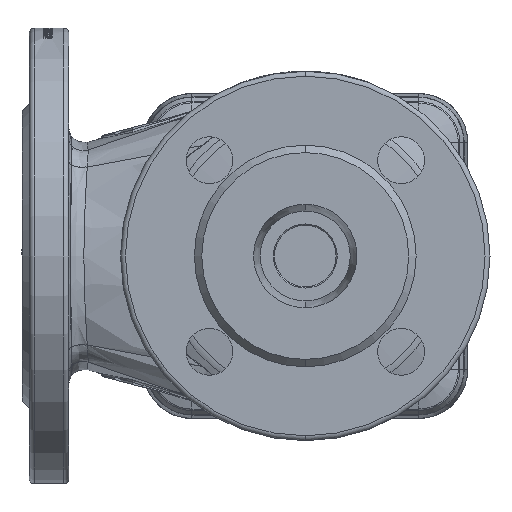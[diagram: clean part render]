
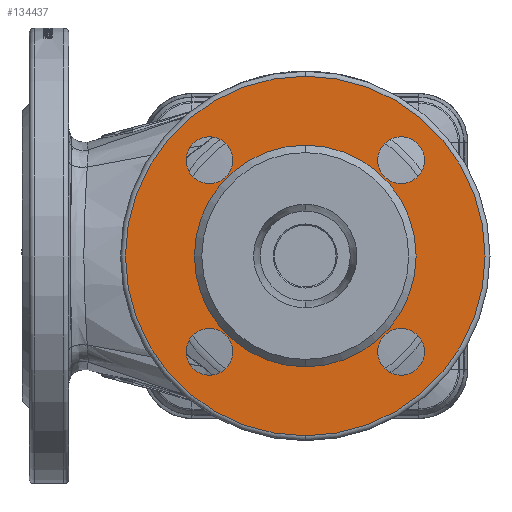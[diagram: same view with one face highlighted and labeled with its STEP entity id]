
A CAD part, front view. The second image highlights one B-rep face of the part: STEP entity #134437.
In plain terms, the highlighted planar face has unit normal (0, -1, 0).
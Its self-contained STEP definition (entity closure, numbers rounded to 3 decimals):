
#722 = AXIS2_PLACEMENT_3D ( 'NONE', #47599, #32770, #138575 ) ;
#1946 = EDGE_CURVE ( 'NONE', #89744, #77852, #49752, .T. ) ;
#2284 = AXIS2_PLACEMENT_3D ( 'NONE', #144006, #26735, #117007 ) ;
#8911 = ORIENTED_EDGE ( 'NONE', *, *, #63718, .F. ) ;
#9077 = EDGE_LOOP ( 'NONE', ( #117354, #8911 ) ) ;
#10361 = DIRECTION ( 'NONE',  ( 0., 0., 1. ) ) ;
#10435 = AXIS2_PLACEMENT_3D ( 'NONE', #76783, #90615, #131462 ) ;
#14884 = ORIENTED_EDGE ( 'NONE', *, *, #39273, .F. ) ;
#16298 = VERTEX_POINT ( 'NONE', #76047 ) ;
#18923 = FACE_BOUND ( 'NONE', #9077, .T. ) ;
#19265 = CARTESIAN_POINT ( 'NONE',  ( 38.891, -137., 38.891 ) ) ;
#21466 = AXIS2_PLACEMENT_3D ( 'NONE', #63409, #52436, #66293 ) ;
#22222 = EDGE_LOOP ( 'NONE', ( #126056, #104897 ) ) ;
#26735 = DIRECTION ( 'NONE',  ( 0., -1., 0. ) ) ;
#28742 = ORIENTED_EDGE ( 'NONE', *, *, #104850, .F. ) ;
#32522 = DIRECTION ( 'NONE',  ( 0., -1., 0. ) ) ;
#32770 = DIRECTION ( 'NONE',  ( 0., -1., 0. ) ) ;
#33340 = AXIS2_PLACEMENT_3D ( 'NONE', #97504, #32522, #150400 ) ;
#34179 = CARTESIAN_POINT ( 'NONE',  ( 38.891, -137., 48.391 ) ) ;
#35135 = CARTESIAN_POINT ( 'NONE',  ( -38.891, -137., 29.391 ) ) ;
#36169 = CIRCLE ( 'NONE', #111208, 73. ) ;
#36603 = VERTEX_POINT ( 'NONE', #53179 ) ;
#36747 = VERTEX_POINT ( 'NONE', #149790 ) ;
#36913 = VERTEX_POINT ( 'NONE', #99148 ) ;
#37513 = CIRCLE ( 'NONE', #2284, 9.5 ) ;
#39273 = EDGE_CURVE ( 'NONE', #36747, #16298, #67953, .T. ) ;
#41467 = FACE_BOUND ( 'NONE', #132720, .T. ) ;
#46993 = ORIENTED_EDGE ( 'NONE', *, *, #68272, .T. ) ;
#47599 = CARTESIAN_POINT ( 'NONE',  ( -45., -137., 0. ) ) ;
#49752 = CIRCLE ( 'NONE', #58431, 9.5 ) ;
#50623 = DIRECTION ( 'NONE',  ( 0., 0., 1. ) ) ;
#52436 = DIRECTION ( 'NONE',  ( 0., -1., 0. ) ) ;
#53179 = CARTESIAN_POINT ( 'NONE',  ( 0., -137., 73. ) ) ;
#53958 = CIRCLE ( 'NONE', #54938, 45. ) ;
#54938 = AXIS2_PLACEMENT_3D ( 'NONE', #167861, #128184, #10361 ) ;
#58431 = AXIS2_PLACEMENT_3D ( 'NONE', #161955, #136697, #69984 ) ;
#58850 = DIRECTION ( 'NONE',  ( 0., 0., -1. ) ) ;
#59145 = CARTESIAN_POINT ( 'NONE',  ( 0., -137., 0. ) ) ;
#59216 = DIRECTION ( 'NONE',  ( 0., 1., 0. ) ) ;
#62727 = CARTESIAN_POINT ( 'NONE',  ( 0., -137., 0. ) ) ;
#62749 = VERTEX_POINT ( 'NONE', #156226 ) ;
#63210 = VERTEX_POINT ( 'NONE', #103132 ) ;
#63409 = CARTESIAN_POINT ( 'NONE',  ( 38.891, -137., -38.891 ) ) ;
#63718 = EDGE_CURVE ( 'NONE', #36913, #63210, #102066, .T. ) ;
#64858 = EDGE_CURVE ( 'NONE', #139404, #84446, #155119, .T. ) ;
#66293 = DIRECTION ( 'NONE',  ( 0., 0., -1. ) ) ;
#67953 = CIRCLE ( 'NONE', #108516, 9.5 ) ;
#68272 = EDGE_CURVE ( 'NONE', #84446, #139404, #53958, .T. ) ;
#69984 = DIRECTION ( 'NONE',  ( 0., 0., -1. ) ) ;
#72430 = CARTESIAN_POINT ( 'NONE',  ( -38.891, -137., -38.891 ) ) ;
#73521 = PLANE ( 'NONE',  #722 ) ;
#73522 = DIRECTION ( 'NONE',  ( 0., -1., 0. ) ) ;
#73552 = CIRCLE ( 'NONE', #33340, 9.5 ) ;
#76047 = CARTESIAN_POINT ( 'NONE',  ( -38.891, -137., -29.391 ) ) ;
#76783 = CARTESIAN_POINT ( 'NONE',  ( 38.891, -137., -38.891 ) ) ;
#77602 = AXIS2_PLACEMENT_3D ( 'NONE', #83997, #59216, #150156 ) ;
#77852 = VERTEX_POINT ( 'NONE', #35135 ) ;
#78666 = ORIENTED_EDGE ( 'NONE', *, *, #89939, .F. ) ;
#79138 = EDGE_LOOP ( 'NONE', ( #159083, #78666 ) ) ;
#80518 = CARTESIAN_POINT ( 'NONE',  ( -38.891, -137., -38.891 ) ) ;
#83997 = CARTESIAN_POINT ( 'NONE',  ( 0., -137., 0. ) ) ;
#84446 = VERTEX_POINT ( 'NONE', #162003 ) ;
#85046 = DIRECTION ( 'NONE',  ( 0., 1., 0. ) ) ;
#85607 = DIRECTION ( 'NONE',  ( 0., 0., 1. ) ) ;
#86484 = ORIENTED_EDGE ( 'NONE', *, *, #1946, .F. ) ;
#86658 = FACE_BOUND ( 'NONE', #109826, .T. ) ;
#89744 = VERTEX_POINT ( 'NONE', #133424 ) ;
#89939 = EDGE_CURVE ( 'NONE', #113552, #36603, #140902, .T. ) ;
#90615 = DIRECTION ( 'NONE',  ( 0., -1., 0. ) ) ;
#94331 = DIRECTION ( 'NONE',  ( 0., 0., -1. ) ) ;
#97504 = CARTESIAN_POINT ( 'NONE',  ( -38.891, -137., 38.891 ) ) ;
#97698 = EDGE_LOOP ( 'NONE', ( #46993, #131405 ) ) ;
#99074 = FACE_OUTER_BOUND ( 'NONE', #79138, .T. ) ;
#99148 = CARTESIAN_POINT ( 'NONE',  ( 38.891, -137., -48.391 ) ) ;
#102066 = CIRCLE ( 'NONE', #10435, 9.5 ) ;
#103030 = DIRECTION ( 'NONE',  ( 0., 1., 0. ) ) ;
#103132 = CARTESIAN_POINT ( 'NONE',  ( 38.891, -137., -29.391 ) ) ;
#104850 = EDGE_CURVE ( 'NONE', #16298, #36747, #128842, .T. ) ;
#104897 = ORIENTED_EDGE ( 'NONE', *, *, #155472, .F. ) ;
#105183 = CARTESIAN_POINT ( 'NONE',  ( 0., -137., -45. ) ) ;
#108516 = AXIS2_PLACEMENT_3D ( 'NONE', #80518, #147225, #94331 ) ;
#109826 = EDGE_LOOP ( 'NONE', ( #86484, #158241 ) ) ;
#111208 = AXIS2_PLACEMENT_3D ( 'NONE', #62727, #103030, #50623 ) ;
#111597 = CIRCLE ( 'NONE', #124817, 9.5 ) ;
#112161 = DIRECTION ( 'NONE',  ( 0., 0., -1. ) ) ;
#112400 = DIRECTION ( 'NONE',  ( 0., -1., 0. ) ) ;
#113387 = AXIS2_PLACEMENT_3D ( 'NONE', #72430, #73522, #112161 ) ;
#113552 = VERTEX_POINT ( 'NONE', #141848 ) ;
#117007 = DIRECTION ( 'NONE',  ( 0., 0., -1. ) ) ;
#117354 = ORIENTED_EDGE ( 'NONE', *, *, #165706, .F. ) ;
#122256 = EDGE_CURVE ( 'NONE', #164611, #62749, #37513, .T. ) ;
#124817 = AXIS2_PLACEMENT_3D ( 'NONE', #19265, #112400, #58850 ) ;
#126056 = ORIENTED_EDGE ( 'NONE', *, *, #122256, .F. ) ;
#128184 = DIRECTION ( 'NONE',  ( 0., 1., 0. ) ) ;
#128842 = CIRCLE ( 'NONE', #113387, 9.5 ) ;
#131405 = ORIENTED_EDGE ( 'NONE', *, *, #64858, .T. ) ;
#131462 = DIRECTION ( 'NONE',  ( 0., 0., -1. ) ) ;
#132720 = EDGE_LOOP ( 'NONE', ( #28742, #14884 ) ) ;
#133424 = CARTESIAN_POINT ( 'NONE',  ( -38.891, -137., 48.391 ) ) ;
#134089 = FACE_BOUND ( 'NONE', #97698, .T. ) ;
#134437 = ADVANCED_FACE ( 'NONE', ( #86658, #18923, #41467, #156676, #134089, #99074 ), #73521, .T. ) ;
#136697 = DIRECTION ( 'NONE',  ( 0., -1., 0. ) ) ;
#137903 = EDGE_CURVE ( 'NONE', #36603, #113552, #36169, .T. ) ;
#138575 = DIRECTION ( 'NONE',  ( 0., 0., -1. ) ) ;
#139404 = VERTEX_POINT ( 'NONE', #105183 ) ;
#140902 = CIRCLE ( 'NONE', #164594, 73. ) ;
#141848 = CARTESIAN_POINT ( 'NONE',  ( 0., -137., -73. ) ) ;
#144006 = CARTESIAN_POINT ( 'NONE',  ( 38.891, -137., 38.891 ) ) ;
#147225 = DIRECTION ( 'NONE',  ( 0., -1., 0. ) ) ;
#148707 = EDGE_CURVE ( 'NONE', #77852, #89744, #73552, .T. ) ;
#149790 = CARTESIAN_POINT ( 'NONE',  ( -38.891, -137., -48.391 ) ) ;
#150156 = DIRECTION ( 'NONE',  ( 0., 0., 1. ) ) ;
#150400 = DIRECTION ( 'NONE',  ( 0., 0., -1. ) ) ;
#155119 = CIRCLE ( 'NONE', #77602, 45. ) ;
#155472 = EDGE_CURVE ( 'NONE', #62749, #164611, #111597, .T. ) ;
#156226 = CARTESIAN_POINT ( 'NONE',  ( 38.891, -137., 29.391 ) ) ;
#156676 = FACE_BOUND ( 'NONE', #22222, .T. ) ;
#158241 = ORIENTED_EDGE ( 'NONE', *, *, #148707, .F. ) ;
#159083 = ORIENTED_EDGE ( 'NONE', *, *, #137903, .F. ) ;
#161955 = CARTESIAN_POINT ( 'NONE',  ( -38.891, -137., 38.891 ) ) ;
#162003 = CARTESIAN_POINT ( 'NONE',  ( 0., -137., 45. ) ) ;
#164351 = CIRCLE ( 'NONE', #21466, 9.5 ) ;
#164594 = AXIS2_PLACEMENT_3D ( 'NONE', #59145, #85046, #85607 ) ;
#164611 = VERTEX_POINT ( 'NONE', #34179 ) ;
#165706 = EDGE_CURVE ( 'NONE', #63210, #36913, #164351, .T. ) ;
#167861 = CARTESIAN_POINT ( 'NONE',  ( 0., -137., 0. ) ) ;
